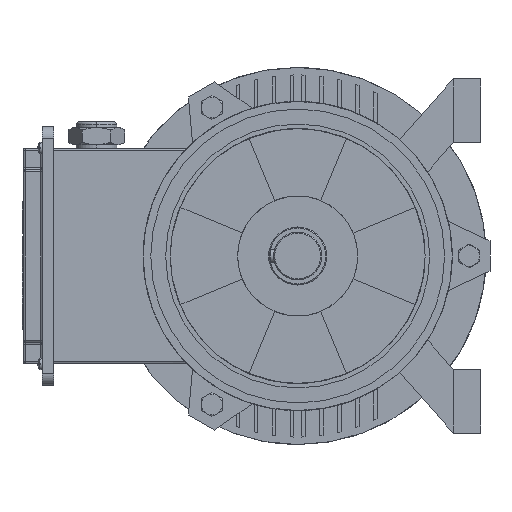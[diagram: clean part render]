
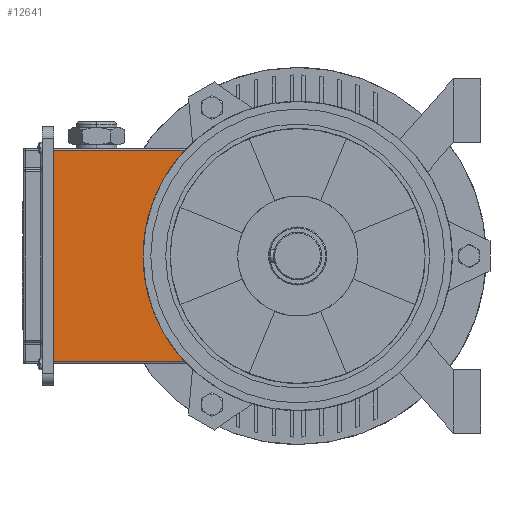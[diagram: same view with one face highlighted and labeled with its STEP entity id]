
A CAD part, left-side view. The second image highlights one B-rep face of the part: STEP entity #12641.
In plain terms, the highlighted planar face has unit normal (-1, 0, 0).
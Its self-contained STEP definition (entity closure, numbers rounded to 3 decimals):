
#4274 = ORIENTED_EDGE ( 'NONE', *, *, #25835, .F. ) ;
#4763 = CARTESIAN_POINT ( 'NONE',  ( -227.882, 199.064, -92.375 ) ) ;
#5226 = VERTEX_POINT ( 'NONE', #20540 ) ;
#7094 = ORIENTED_EDGE ( 'NONE', *, *, #14159, .T. ) ;
#8190 = DIRECTION ( 'NONE',  ( -1., 0., 0. ) ) ;
#8206 = EDGE_CURVE ( 'NONE', #18591, #8903, #20975, .T. ) ;
#8327 = DIRECTION ( 'NONE',  ( 0., 0., 1. ) ) ;
#8903 = VERTEX_POINT ( 'NONE', #4763 ) ;
#9770 = DIRECTION ( 'NONE',  ( 0., 0., -1. ) ) ;
#12054 = CARTESIAN_POINT ( 'NONE',  ( -227.882, 96.909, -3.5 ) ) ;
#12641 = ADVANCED_FACE ( 'NONE', ( #23940 ), #26414, .T. ) ;
#12651 = AXIS2_PLACEMENT_3D ( 'NONE', #38361, #8190, #8327 ) ;
#14159 = EDGE_CURVE ( 'NONE', #30268, #8903, #28426, .T. ) ;
#17945 = DIRECTION ( 'NONE',  ( -1., 0., 0. ) ) ;
#18184 = DIRECTION ( 'NONE',  ( 0., 1., 0. ) ) ;
#18591 = VERTEX_POINT ( 'NONE', #37206 ) ;
#18662 = EDGE_LOOP ( 'NONE', ( #4274, #32239, #7094, #23794 ) ) ;
#20540 = CARTESIAN_POINT ( 'NONE',  ( -227.882, 84.322, 92.375 ) ) ;
#20975 = LINE ( 'NONE', #32711, #30802 ) ;
#23794 = ORIENTED_EDGE ( 'NONE', *, *, #8206, .F. ) ;
#23940 = FACE_OUTER_BOUND ( 'NONE', #18662, .T. ) ;
#24697 = CARTESIAN_POINT ( 'NONE',  ( -227.882, 199.064, -3.5 ) ) ;
#24792 = LINE ( 'NONE', #26111, #34155 ) ;
#25835 = EDGE_CURVE ( 'NONE', #5226, #18591, #35864, .T. ) ;
#26111 = CARTESIAN_POINT ( 'NONE',  ( -227.882, 96.909, 92.375 ) ) ;
#26414 = PLANE ( 'NONE',  #27941 ) ;
#27941 = AXIS2_PLACEMENT_3D ( 'NONE', #12054, #17945, #33133 ) ;
#28426 = LINE ( 'NONE', #24697, #32659 ) ;
#30268 = VERTEX_POINT ( 'NONE', #33107 ) ;
#30802 = VECTOR ( 'NONE', #18184, 1000. ) ;
#32239 = ORIENTED_EDGE ( 'NONE', *, *, #35377, .T. ) ;
#32659 = VECTOR ( 'NONE', #9770, 1000. ) ;
#32711 = CARTESIAN_POINT ( 'NONE',  ( -227.882, 96.909, -92.375 ) ) ;
#33107 = CARTESIAN_POINT ( 'NONE',  ( -227.882, 199.064, 92.375 ) ) ;
#33133 = DIRECTION ( 'NONE',  ( 0., 0., 1. ) ) ;
#34155 = VECTOR ( 'NONE', #38725, 1000. ) ;
#35377 = EDGE_CURVE ( 'NONE', #5226, #30268, #24792, .T. ) ;
#35864 = CIRCLE ( 'NONE', #12651, 135.3 ) ;
#37206 = CARTESIAN_POINT ( 'NONE',  ( -227.882, 84.322, -92.375 ) ) ;
#38361 = CARTESIAN_POINT ( 'NONE',  ( -227.882, -14.536, 0. ) ) ;
#38725 = DIRECTION ( 'NONE',  ( 0., 1., 0. ) ) ;
